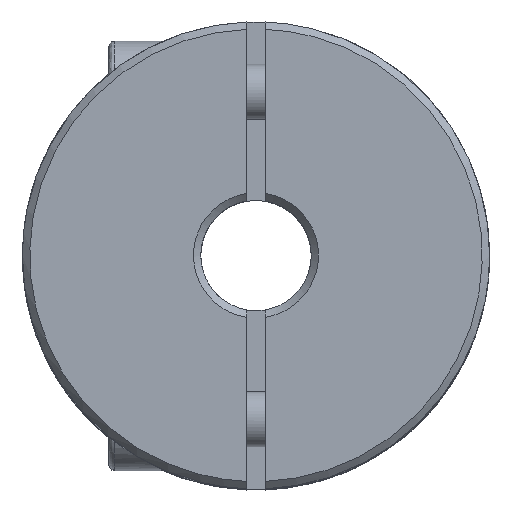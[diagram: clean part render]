
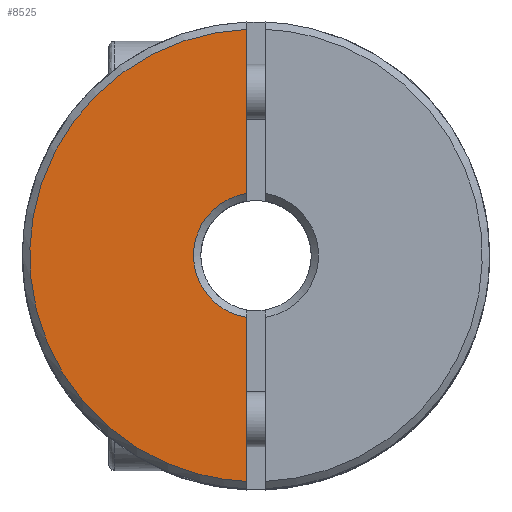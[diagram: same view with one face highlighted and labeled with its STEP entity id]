
A CAD part, top view. The second image highlights one B-rep face of the part: STEP entity #8525.
In plain terms, the highlighted free-form (B-spline) face has degree [3, 3] with [4, 4] control points.
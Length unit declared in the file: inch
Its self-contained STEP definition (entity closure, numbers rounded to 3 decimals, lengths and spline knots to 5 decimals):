
#1189=CARTESIAN_POINT('',(-0.01969,0.48385,0.75));
#1276=CARTESIAN_POINT('',(-0.01969,0.1324,0.75));
#1298=CARTESIAN_POINT('',(-0.01969,-0.1324,0.75));
#1419=DIRECTION('',(0.,1.,0.));
#1420=VECTOR('',#1419,0.35145);
#1421=CARTESIAN_POINT('',(-0.01969,0.1324,0.75));
#1422=LINE('',#1421,#1420);
#1423=CARTESIAN_POINT('',(-0.01969,-0.1324,0.75));
#1424=CARTESIAN_POINT('',(-0.02689,-0.13133,0.75));
#1425=CARTESIAN_POINT('',(-0.04157,-0.12794,0.75));
#1426=CARTESIAN_POINT('',(-0.06343,-0.1187,0.75));
#1427=CARTESIAN_POINT('',(-0.08395,-0.10524,0.75));
#1428=CARTESIAN_POINT('',(-0.10196,-0.08792,0.75));
#1429=CARTESIAN_POINT('',(-0.11644,-0.06757,0.75));
#1430=CARTESIAN_POINT('',(-0.12674,-0.04528,0.75));
#1431=CARTESIAN_POINT('',(-0.13168,-0.02614,0.75));
#1432=CARTESIAN_POINT('',(-0.13356,-0.01102,0.75));
#1433=CARTESIAN_POINT('',(-0.13401,0.,0.75));
#1434=CARTESIAN_POINT('',(-0.13356,0.01102,0.75));
#1435=CARTESIAN_POINT('',(-0.13168,0.02614,0.75));
#1436=CARTESIAN_POINT('',(-0.12674,0.04528,0.75));
#1437=CARTESIAN_POINT('',(-0.11644,0.06757,0.75));
#1438=CARTESIAN_POINT('',(-0.10196,0.08792,0.75));
#1439=CARTESIAN_POINT('',(-0.08395,0.10524,0.75));
#1440=CARTESIAN_POINT('',(-0.06343,0.1187,0.75));
#1441=CARTESIAN_POINT('',(-0.04157,0.12794,0.75));
#1442=CARTESIAN_POINT('',(-0.02689,0.13133,0.75));
#1443=CARTESIAN_POINT('',(-0.01969,0.1324,0.75));
#1445=DIRECTION('',(0.,1.,0.));
#1446=VECTOR('',#1445,0.35145);
#1447=CARTESIAN_POINT('',(-0.01969,-0.48385,0.75));
#1448=LINE('',#1447,#1446);
#1449=CARTESIAN_POINT('',(-0.01969,0.48385,0.75));
#1450=CARTESIAN_POINT('',(-0.04762,0.48272,0.75));
#1451=CARTESIAN_POINT('',(-0.10527,0.4755,0.75));
#1452=CARTESIAN_POINT('',(-0.19311,0.4474,0.75));
#1453=CARTESIAN_POINT('',(-0.27712,0.40106,0.75));
#1454=CARTESIAN_POINT('',(-0.35172,0.33763,0.75));
#1455=CARTESIAN_POINT('',(-0.41204,0.26051,0.75));
#1456=CARTESIAN_POINT('',(-0.44775,0.189,0.75));
#1457=CARTESIAN_POINT('',(-0.46716,0.13025,0.75));
#1458=CARTESIAN_POINT('',(-0.47724,0.08607,0.75));
#1459=CARTESIAN_POINT('',(-0.48207,0.04969,0.75));
#1460=CARTESIAN_POINT('',(-0.48395,0.02106,0.75));
#1461=CARTESIAN_POINT('',(-0.4844,0.,0.75));
#1462=CARTESIAN_POINT('',(-0.48395,-0.02106,0.75));
#1463=CARTESIAN_POINT('',(-0.48207,-0.04969,0.75));
#1464=CARTESIAN_POINT('',(-0.47724,-0.08607,0.75));
#1465=CARTESIAN_POINT('',(-0.46716,-0.13025,0.75));
#1466=CARTESIAN_POINT('',(-0.44775,-0.189,0.75));
#1467=CARTESIAN_POINT('',(-0.41204,-0.26051,0.75));
#1468=CARTESIAN_POINT('',(-0.35172,-0.33763,0.75));
#1469=CARTESIAN_POINT('',(-0.27712,-0.40106,0.75));
#1470=CARTESIAN_POINT('',(-0.19311,-0.4474,0.75));
#1471=CARTESIAN_POINT('',(-0.10527,-0.4755,0.75));
#1472=CARTESIAN_POINT('',(-0.04762,-0.48272,0.75));
#1473=CARTESIAN_POINT('',(-0.01969,-0.48385,0.75));
#6029=VERTEX_POINT('',#1298);
#6030=CARTESIAN_POINT('',(-0.01969,-0.48385,0.75));
#6031=VERTEX_POINT('',#6030);
#6036=VERTEX_POINT('',#1276);
#6041=VERTEX_POINT('',#1189);
#8502=CARTESIAN_POINT('',(-0.49354,-0.50321,0.75));
#8503=CARTESIAN_POINT('',(-0.49354,-0.16774,0.75));
#8504=CARTESIAN_POINT('',(-0.49354,0.16774,0.75));
#8505=CARTESIAN_POINT('',(-0.49354,0.50321,0.75));
#8506=CARTESIAN_POINT('',(-0.33249,-0.50321,0.75));
#8507=CARTESIAN_POINT('',(-0.33249,-0.16774,0.75));
#8508=CARTESIAN_POINT('',(-0.33249,0.16774,0.75));
#8509=CARTESIAN_POINT('',(-0.33249,0.50321,0.75));
#8510=CARTESIAN_POINT('',(-0.17144,-0.50321,0.75));
#8511=CARTESIAN_POINT('',(-0.17144,-0.16774,0.75));
#8512=CARTESIAN_POINT('',(-0.17144,0.16774,0.75));
#8513=CARTESIAN_POINT('',(-0.17144,0.50321,0.75));
#8514=CARTESIAN_POINT('',(-0.01039,-0.50321,0.75));
#8515=CARTESIAN_POINT('',(-0.01039,-0.16774,0.75));
#8516=CARTESIAN_POINT('',(-0.01039,0.16774,0.75));
#8517=CARTESIAN_POINT('',(-0.01039,0.50321,0.75));
#8518=B_SPLINE_SURFACE_WITH_KNOTS('',3,3,((#8502,#8503,#8504,#8505),(#8506,
#8507,#8508,#8509),(#8510,#8511,#8512,#8513),(#8514,#8515,#8516,#8517)),
.UNSPECIFIED.,.F.,.F.,.F.,(4,4),(4,4),(0.0264,1.2536),(
-1.27814,1.27814),.UNSPECIFIED.);
#8519=ORIENTED_EDGE('',*,*,#8306,.F.);
#8520=ORIENTED_EDGE('',*,*,#8350,.F.);
#8521=ORIENTED_EDGE('',*,*,#8481,.F.);
#8522=ORIENTED_EDGE('',*,*,#8271,.F.);
#8523=EDGE_LOOP('',(#8519,#8520,#8521,#8522));
#8524=FACE_OUTER_BOUND('',#8523,.F.);
#1444=B_SPLINE_CURVE_WITH_KNOTS('',3,(#1423,#1424,#1425,#1426,#1427,#1428,#1429,
#1430,#1431,#1432,#1433,#1434,#1435,#1436,#1437,#1438,#1439,#1440,#1441,#1442,
#1443),.UNSPECIFIED.,.F.,.F.,(4,1,1,1,1,1,1,1,1,1,1,1,1,1,1,1,1,1,4),(0.,
0.0625,0.125,0.1875,0.25,0.3125,0.375,0.4375,0.46875,0.5,
0.53125,0.5625,0.625,0.6875,0.75,0.8125,0.875,0.9375,1.),
.UNSPECIFIED.);
#1474=B_SPLINE_CURVE_WITH_KNOTS('',3,(#1449,#1450,#1451,#1452,#1453,#1454,#1455,
#1456,#1457,#1458,#1459,#1460,#1461,#1462,#1463,#1464,#1465,#1466,#1467,#1468,
#1469,#1470,#1471,#1472,#1473),.UNSPECIFIED.,.F.,.F.,(4,1,1,1,1,1,1,1,1,1,1,1,1,
1,1,1,1,1,1,1,1,1,4),(0.,0.0625,0.125,0.1875,0.25,0.3125,0.375,
0.40625,0.4375,0.46875,0.48438,0.5,0.51563,0.53125,0.5625,
0.59375,0.625,0.6875,0.75,0.8125,0.875,0.9375,1.),
.UNSPECIFIED.);
#8271=EDGE_CURVE('',#6041,#6031,#1474,.T.);
#8306=EDGE_CURVE('',#6036,#6041,#1422,.T.);
#8350=EDGE_CURVE('',#6029,#6036,#1444,.T.);
#8481=EDGE_CURVE('',#6031,#6029,#1448,.T.);
#8525=ADVANCED_FACE('',(#8524),#8518,.T.);
